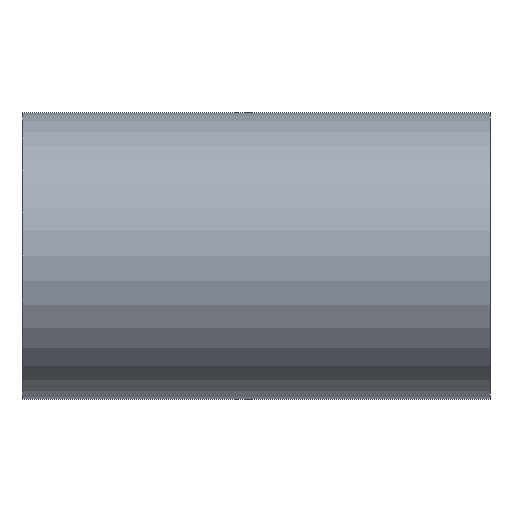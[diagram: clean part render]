
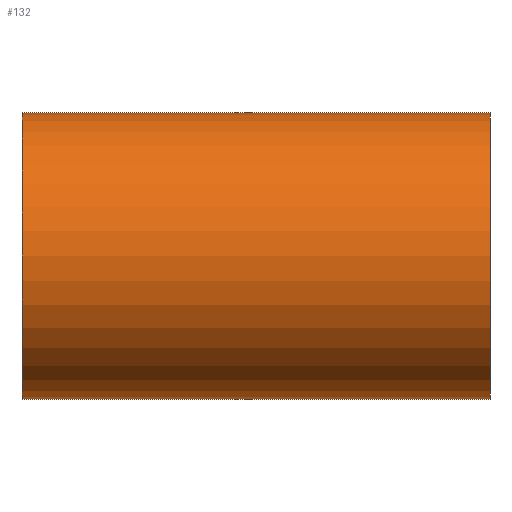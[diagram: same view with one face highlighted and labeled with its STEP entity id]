
A CAD part, front view. The second image highlights one B-rep face of the part: STEP entity #132.
In plain terms, the highlighted cylindrical face has radius 435 mm (diameter 870 mm), a partial arc.
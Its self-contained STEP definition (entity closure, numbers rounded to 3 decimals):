
#132=ADVANCED_FACE('',(#260),#261,.T.);
#260=FACE_OUTER_BOUND('',#415,.T.);
#261=CYLINDRICAL_SURFACE('',#416,435.0);
#415=EDGE_LOOP('',(#739,#740,#741,#742));
#416=AXIS2_PLACEMENT_3D('',#743,#744,#745);
#739=ORIENTED_EDGE('',*,*,#827,.T.);
#740=ORIENTED_EDGE('',*,*,#968,.F.);
#741=ORIENTED_EDGE('',*,*,#829,.T.);
#742=ORIENTED_EDGE('',*,*,#969,.F.);
#743=CARTESIAN_POINT('',(0.0,0.0,0.0));
#744=DIRECTION('',(1.0,0.0,0.0));
#745=DIRECTION('',(0.0,0.0,-1.0));
#827=EDGE_CURVE('',#973,#974,#975,.T.);
#829=EDGE_CURVE('',#978,#976,#979,.T.);
#968=EDGE_CURVE('',#978,#974,#1186,.T.);
#969=EDGE_CURVE('',#973,#976,#1187,.T.);
#973=VERTEX_POINT('',#1191);
#974=VERTEX_POINT('',#1192);
#975=LINE('',#1193,#1194);
#976=VERTEX_POINT('',#1195);
#978=VERTEX_POINT('',#1197);
#979=LINE('',#1198,#1199);
#1186=CIRCLE('',#1440,435.0);
#1187=CIRCLE('',#1441,435.0);
#1191=CARTESIAN_POINT('',(-710.0,0.0,-435.0));
#1192=CARTESIAN_POINT('',(710.0,0.0,-435.0));
#1193=CARTESIAN_POINT('',(0.0,0.,-435.0));
#1194=VECTOR('',#1444,1.0);
#1195=CARTESIAN_POINT('',(-710.0,0.,435.0));
#1197=CARTESIAN_POINT('',(710.0,0.,435.0));
#1198=CARTESIAN_POINT('',(0.0,0.,435.0));
#1199=VECTOR('',#1448,1.0);
#1440=AXIS2_PLACEMENT_3D('',#1690,#1691,#1692);
#1441=AXIS2_PLACEMENT_3D('',#1693,#1694,#1695);
#1444=DIRECTION('',(1.0,0.0,0.0));
#1448=DIRECTION('',(-1.0,-0.0,-0.0));
#1690=CARTESIAN_POINT('',(710.0,0.0,0.0));
#1691=DIRECTION('',(1.0,0.0,0.0));
#1692=DIRECTION('',(0.0,0.0,-1.0));
#1693=CARTESIAN_POINT('',(-710.0,0.0,0.0));
#1694=DIRECTION('',(-1.0,0.0,0.0));
#1695=DIRECTION('',(0.0,0.0,-1.0));
